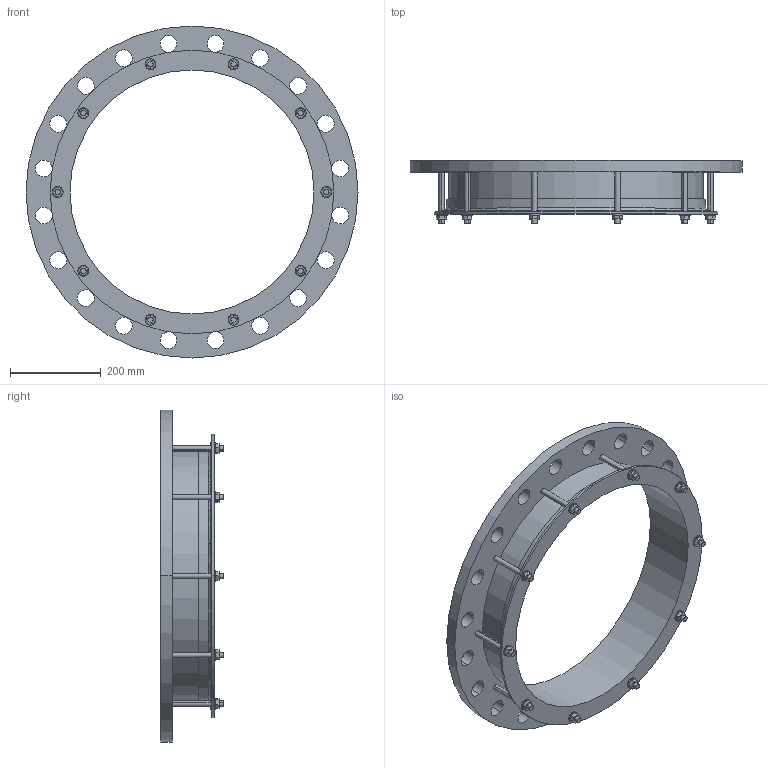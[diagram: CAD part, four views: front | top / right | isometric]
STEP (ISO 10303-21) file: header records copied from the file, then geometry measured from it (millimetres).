
FILE_DESCRIPTION((''),'2;1');
FILE_NAME('532X500PN25','2019-04-04T',('mfairey'),('Glynwed Pipe Systems'),'CREO PARAMETRIC BY PTC INC, 2016130','CREO PARAMETRIC BY PTC INC, 2016130','');
FILE_SCHEMA(('CONFIG_CONTROL_DESIGN'));
Length unit declared in the file: millimetre
Products named in the file (1): 532X500PN25
Bounding box: 730 x 137.45 x 730 mm (x, y, z)
Volume: 6846364.8 mm3; surface area: 970056.4 mm2
Topology: 1 solids, 1 shells, 208 faces, 548 edges, 364 vertices
Faces by surface type: cylinder 108, plane 94, cone 4, torus 2
Entity records: 7186 total; most frequent: CARTESIAN_POINT 1740, DIRECTION 1132, ORIENTED_EDGE 1096, EDGE_CURVE 548, AXIS2_PLACEMENT_3D 420, VERTEX_POINT 364, VECTOR 292, LINE 292
